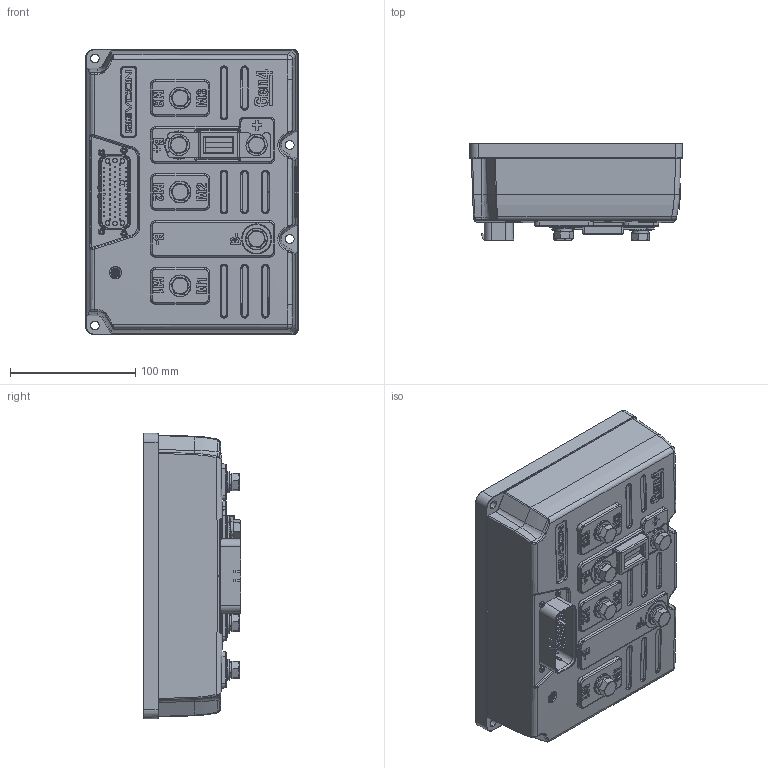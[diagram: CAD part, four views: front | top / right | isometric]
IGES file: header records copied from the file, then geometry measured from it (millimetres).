
Start section: SolidWorks IGES file using analytic representation for surfaces
Global section: file name: N:\UK\CAD\CAD Shared\Gen4\Gen4 models\Gen4 SIZE 4 CUSTOMER MODEL.IGS; native system: SolidWorks 2010; preprocessor: SolidWorks 2010; author: steve.jacobson; date: 111201.131650; units: millimetre
Bounding box: 170.03 x 77.65 x 228.03 mm (x, y, z)
Surface area: 144915.8 mm2 (no closed solid volume)
Topology: 0 solids, 0 shells, 1582 faces, 19395 edges, 19389 vertices
Faces by surface type: bspline 1112, revolution 470
